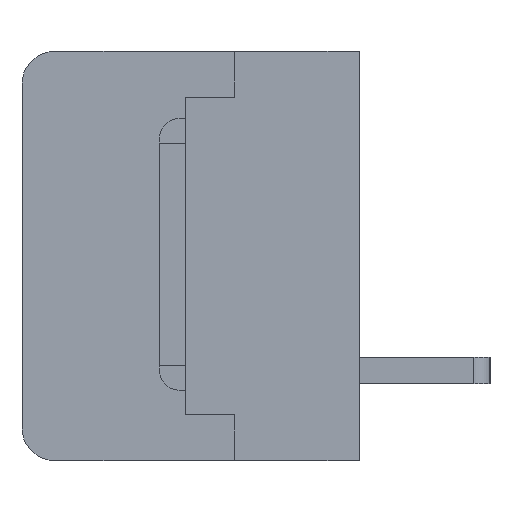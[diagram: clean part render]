
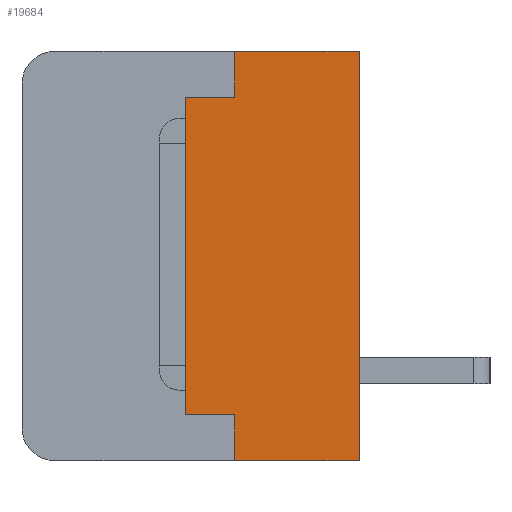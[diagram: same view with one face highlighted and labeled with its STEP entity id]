
A CAD part, left-side view. The second image highlights one B-rep face of the part: STEP entity #19684.
In plain terms, the highlighted planar face has unit normal (-1, 0, 0).
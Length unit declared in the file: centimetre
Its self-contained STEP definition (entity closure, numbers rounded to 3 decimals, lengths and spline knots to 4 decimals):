
#1632=VERTEX_POINT('',#26906);
#1633=VERTEX_POINT('',#26908);
#1682=VERTEX_POINT('',#27048);
#1708=VERTEX_POINT('',#27101);
#1734=VERTEX_POINT('',#27155);
#1755=VERTEX_POINT('',#27200);
#2743=VERTEX_POINT('',#30760);
#2744=VERTEX_POINT('',#30763);
#3674=VECTOR('',#21668,1.);
#3762=VECTOR('',#21800,1.);
#3788=VECTOR('',#21829,1.);
#3810=VECTOR('',#21852,1.);
#4836=VECTOR('',#24204,1.);
#4837=VECTOR('',#24205,1.);
#4838=VECTOR('',#24206,1.);
#4839=VECTOR('',#24207,1.);
#5830=LINE('',#26907,#3674);
#5918=LINE('',#27102,#3762);
#5944=LINE('',#27156,#3788);
#5966=LINE('',#27199,#3810);
#6992=LINE('',#30759,#4836);
#6993=LINE('',#30761,#4837);
#6994=LINE('',#30762,#4838);
#6995=LINE('',#30764,#4839);
#8187=EDGE_CURVE('',#1632,#1633,#5830,.T.);
#8284=EDGE_CURVE('',#1708,#1682,#5918,.T.);
#8311=EDGE_CURVE('',#1682,#1734,#5944,.T.);
#8333=EDGE_CURVE('',#1734,#1755,#5966,.T.);
#9870=EDGE_CURVE('',#2743,#1708,#6992,.T.);
#9871=EDGE_CURVE('',#1633,#2743,#6993,.T.);
#9872=EDGE_CURVE('',#2744,#1632,#6994,.T.);
#9873=EDGE_CURVE('',#1755,#2744,#6995,.T.);
#15325=ORIENTED_EDGE('',*,*,#9870,.F.);
#15326=ORIENTED_EDGE('',*,*,#9871,.F.);
#15327=ORIENTED_EDGE('',*,*,#8187,.F.);
#15328=ORIENTED_EDGE('',*,*,#9872,.F.);
#15329=ORIENTED_EDGE('',*,*,#9873,.F.);
#15330=ORIENTED_EDGE('',*,*,#8333,.F.);
#15331=ORIENTED_EDGE('',*,*,#8311,.F.);
#15332=ORIENTED_EDGE('',*,*,#8284,.F.);
#17337=EDGE_LOOP('',(#15325,#15326,#15327,#15328,#15329,#15330,#15331,#15332));
#18553=FACE_BOUND('',#17337,.T.);
#19684=ADVANCED_FACE('',(#18553),#20523,.F.);
#20523=PLANE('',#33442);
#21668=DIRECTION('',(0.,0.,1.));
#21800=DIRECTION('',(0.,-1.,0.));
#21829=DIRECTION('',(0.,0.,-1.));
#21852=DIRECTION('',(0.,1.,0.));
#24203=DIRECTION('',(1.,0.,0.));
#24204=DIRECTION('',(0.,0.,1.));
#24205=DIRECTION('',(0.,-1.,0.));
#24206=DIRECTION('',(0.,1.,0.));
#24207=DIRECTION('',(0.,0.,1.));
#26906=CARTESIAN_POINT('',(-1.382,0.53,-0.485));
#26907=CARTESIAN_POINT('',(-1.382,0.53,-0.485));
#26908=CARTESIAN_POINT('',(-1.382,0.53,0.485));
#27048=CARTESIAN_POINT('',(-1.382,0.,0.625));
#27101=CARTESIAN_POINT('',(-1.382,0.38,0.625));
#27102=CARTESIAN_POINT('',(-1.382,0.38,0.625));
#27155=CARTESIAN_POINT('',(-1.382,0.,-0.625));
#27156=CARTESIAN_POINT('',(-1.382,0.,0.625));
#27199=CARTESIAN_POINT('',(-1.382,0.,-0.625));
#27200=CARTESIAN_POINT('',(-1.382,0.38,-0.625));
#30758=CARTESIAN_POINT('',(-1.382,0.2532,0.));
#30759=CARTESIAN_POINT('',(-1.382,0.38,0.485));
#30760=CARTESIAN_POINT('',(-1.382,0.38,0.485));
#30761=CARTESIAN_POINT('',(-1.382,0.53,0.485));
#30762=CARTESIAN_POINT('',(-1.382,0.38,-0.485));
#30763=CARTESIAN_POINT('',(-1.382,0.38,-0.485));
#30764=CARTESIAN_POINT('',(-1.382,0.38,-0.625));
#33442=AXIS2_PLACEMENT_3D('',#30758,#24203,$);
